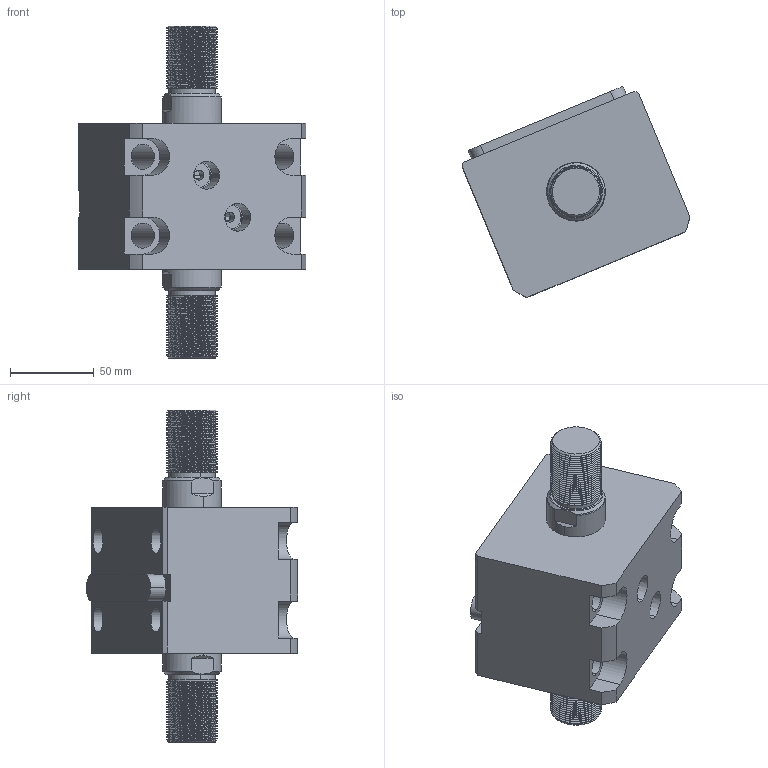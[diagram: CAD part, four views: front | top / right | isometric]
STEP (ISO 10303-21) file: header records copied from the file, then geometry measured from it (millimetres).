
FILE_DESCRIPTION (( 'STEP AP214' ), '1' );
FILE_NAME ('chtb-lw63x5w_asm.STEP', '2018-05-18T07:46:51', ( 'Windows' ), ( 'Microsoft' ), 'SwSTEP 2.0', 'SolidWorks 2015', '' );
FILE_SCHEMA (( 'AUTOMOTIVE_DESIGN' ));
Length unit declared in the file: millimetre
Products named in the file (5): CHTB-LW63X5NBT; CHTB-LA63PJ; CHTB-63QG; chtb-lw63x5w_asm; CHTB-SW63X5WHSG
Assembly tree (4 placements, depth 2):
  chtb-lw63x5w_asm
    CHTB-63QG
    CHTB-LA63PJ
    CHTB-LW63X5NBT
    CHTB-SW63X5WHSG
Bounding box: 135.77 x 126.06 x 198 mm (x, y, z)
Volume: 875969.4 mm3; surface area: 144247.3 mm2
Topology: 4 solids, 4 shells, 306 faces, 889 edges, 601 vertices
Faces by surface type: cylinder 204, plane 58, bspline 16, cone 16, torus 12
Entity records: 27878 total; most frequent: CARTESIAN_POINT 20531, ORIENTED_EDGE 1770, DIRECTION 1228, EDGE_CURVE 885, VERTEX_POINT 601, AXIS2_PLACEMENT_3D 458, EDGE_LOOP 336, LINE 312
